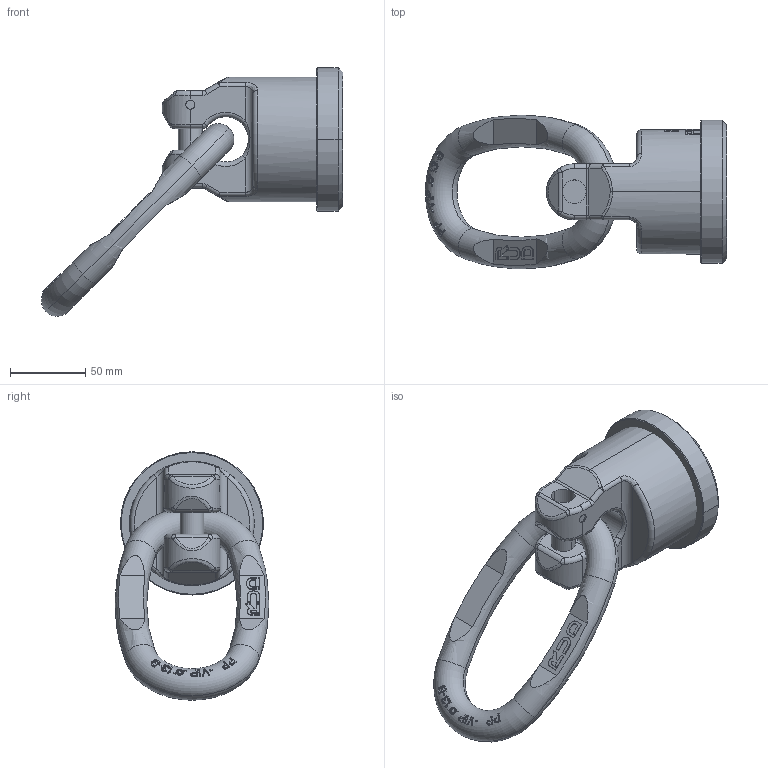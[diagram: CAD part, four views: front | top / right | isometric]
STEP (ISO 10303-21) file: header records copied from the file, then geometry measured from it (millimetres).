
FILE_DESCRIPTION((''),'2;1');
FILE_NAME('001-M31395-P-40_ASM','2018-04-26T',('Anja.Joas'),(''),'PRO/ENGINEER BY PARAMETRIC TECHNOLOGY CORPORATION, 2011490','PRO/ENGINEER BY PARAMETRIC TECHNOLOGY CORPORATION, 2011490','');
FILE_SCHEMA(('CONFIG_CONTROL_DESIGN'));
Length unit declared in the file: millimetre
Products named in the file (4): 001-M31395-P-20; 001-M31395-P-50; 001-M31290-004; 001-M31395-P-40_ASM
Assembly tree (3 placements, depth 2):
  001-M31395-P-40_ASM
    001-M31395-P-20
    001-M31395-P-50
    001-M31290-004
Bounding box: 199.73 x 102 x 164.73 mm (x, y, z)
Volume: 588549.7 mm3; surface area: 79790.1 mm2
Topology: 3 solids, 3 shells, 602 faces, 1595 edges, 1036 vertices
Faces by surface type: plane 467, cylinder 66, torus 32, bspline 26, cone 6, sphere 4, extrusion 1
Entity records: 20944 total; most frequent: CARTESIAN_POINT 6733, ORIENTED_EDGE 3190, DIRECTION 2540, EDGE_CURVE 1595, VERTEX_POINT 1036, VECTOR 848, LINE 847, AXIS2_PLACEMENT_3D 846
